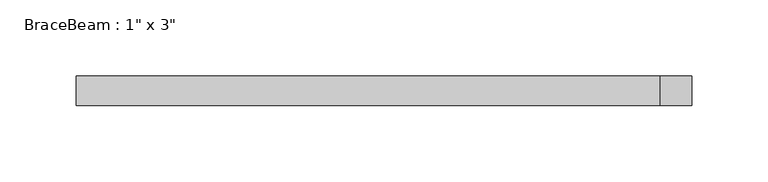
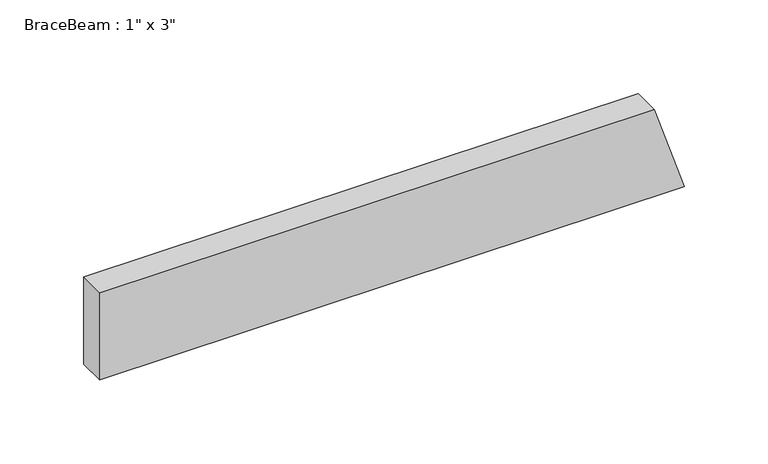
"""IFC4 building model written with IfcOpenShell, lengths in millimetres: beam geometry."""

from ifc_helpers import new_model, si_unit, origin, place, context, project, spatial, faceted_brep, source, transform, mapped, element, save


def beam_d3007124(model_context):
    return source(origin(), model_context, "Body", "Brep", [
        faceted_brep([(-196.744461, 9.525, -31.75), (205.4589385, 9.525, -31.75), (205.4589385, -9.525, -31.75), (-196.744461, -9.525, -31.75), (195.0960913, -9.525, 0.0), (184.7332441, -9.525, 31.75), (-196.744461, -9.525, 31.75), (184.7332441, 9.525, 31.75), (-196.744461, 9.525, 31.75), (195.0960913, 9.525, 0.0)], [[[0, 1, 2, 3]], [[3, 2, 4, 5, 6]], [[6, 5, 7, 8]], [[8, 7, 9, 1, 0]], [[8, 0, 3, 6]], [[5, 4, 2, 1, 9, 7]]]),
    ])


if __name__ == "__main__":
    model = new_model("IFC4")
    model_context = context("Model", 3, world=origin())
    ifc_project = project(units=[si_unit("LENGTHUNIT", "METRE", prefix="MILLI")], contexts=[model_context])
    site = spatial("IfcSite", under=ifc_project)
    building = spatial("IfcBuilding", under=site)
    placement = place(None, origin())
    beam_shape = beam_d3007124(model_context)
    element("IfcBeam", 1, ObjectType="BraceBeam : 1\" x 3\"", at=placement, inside=building, context=model_context, shape_type="MappedRepresentation", body=[
        mapped(beam_shape, transform((0.0, 0.0, 0.0), x_axis=(1.0, 0.0, 0.0), y_axis=(0.0, 1.0, 0.0), z_axis=(0.0, 0.0, 1.0))),
    ])
    save(model, "model.ifc")
